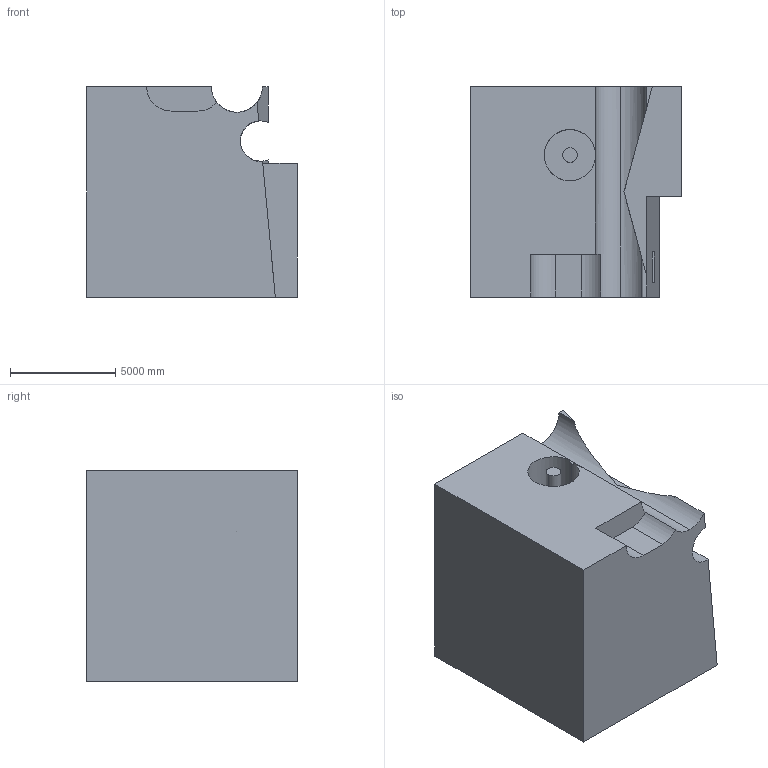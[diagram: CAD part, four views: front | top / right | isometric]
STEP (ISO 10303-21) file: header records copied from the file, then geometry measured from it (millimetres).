
FILE_DESCRIPTION (( 'STEP AP203' ), '1' );
FILE_NAME ('653.STEP', '2022-07-29T12:19:28', ( 'user' ), ( '' ), 'SwSTEP 2.0', 'SolidWorks 2021', '' );
FILE_SCHEMA (( 'CONFIG_CONTROL_DESIGN' ));
Length unit declared in the file: centimetre
Products named in the file (1): 653
Bounding box: 10000 x 10000 x 10000 mm (x, y, z)
Volume: 814018467985.5 mm3; surface area: 659746803.3 mm2
Topology: 1 solids, 1 shells, 34 faces, 90 edges, 60 vertices
Faces by surface type: plane 22, cylinder 12
Entity records: 1224 total; most frequent: CARTESIAN_POINT 299, ORIENTED_EDGE 180, DIRECTION 173, EDGE_CURVE 90, VECTOR 61, LINE 61, VERTEX_POINT 60, AXIS2_PLACEMENT_3D 56
